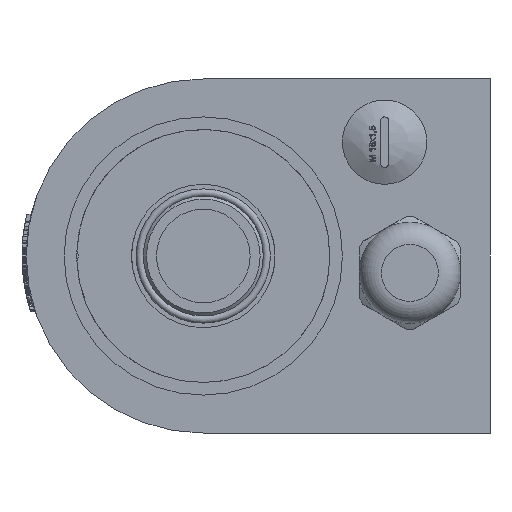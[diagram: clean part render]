
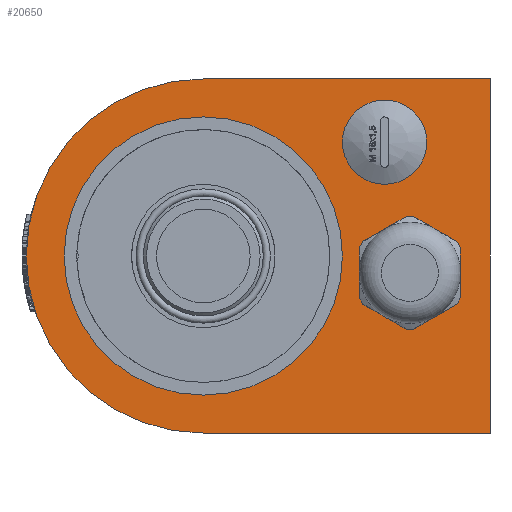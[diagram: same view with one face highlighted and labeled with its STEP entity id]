
A CAD part, front view. The second image highlights one B-rep face of the part: STEP entity #20650.
In plain terms, the highlighted planar face has unit normal (0, -1, 0).
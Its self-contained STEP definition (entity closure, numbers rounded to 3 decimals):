
#548=FACE_BOUND('',#6985,.T.);
#549=FACE_BOUND('',#6986,.T.);
#550=FACE_BOUND('',#6987,.T.);
#1156=LINE('',#29735,#2722);
#1163=LINE('',#29755,#2729);
#1170=LINE('',#29775,#2736);
#1177=LINE('',#29795,#2743);
#1184=LINE('',#29815,#2750);
#1191=LINE('',#29835,#2757);
#1198=LINE('',#29873,#2764);
#1200=LINE('',#29876,#2766);
#1203=LINE('',#29888,#2769);
#1213=LINE('',#30205,#2779);
#1214=LINE('',#30208,#2780);
#1215=LINE('',#30210,#2781);
#1217=LINE('',#30233,#2783);
#1218=LINE('',#30235,#2784);
#1219=LINE('',#30238,#2785);
#2722=VECTOR('',#23635,10.);
#2729=VECTOR('',#23646,10.);
#2736=VECTOR('',#23657,10.);
#2743=VECTOR('',#23668,10.);
#2750=VECTOR('',#23679,10.);
#2757=VECTOR('',#23690,10.);
#2764=VECTOR('',#23709,10.);
#2766=VECTOR('',#23713,10.);
#2769=VECTOR('',#23720,10.);
#2779=VECTOR('',#23788,10.);
#2780=VECTOR('',#23793,10.);
#2781=VECTOR('',#23796,10.);
#2783=VECTOR('',#23826,10.);
#2784=VECTOR('',#23827,10.);
#2785=VECTOR('',#23830,10.);
#5043=PLANE('',#21852);
#5793=FACE_OUTER_BOUND('',#6984,.T.);
#6984=EDGE_LOOP('',(#14642,#14643,#14644,#14645));
#6985=EDGE_LOOP('',(#14646,#14647));
#6986=EDGE_LOOP('',(#14648,#14649,#14650,#14651,#14652,#14653,#14654,#14655,
#14656,#14657,#14658,#14659));
#6987=EDGE_LOOP('',(#14660,#14661));
#8131=CIRCLE('',#21785,10.);
#8132=CIRCLE('',#21786,10.);
#8150=CIRCLE('',#21847,33.);
#8151=CIRCLE('',#21848,33.);
#8154=CIRCLE('',#21853,42.);
#8733=VERTEX_POINT('',#29714);
#8734=VERTEX_POINT('',#29716);
#8737=VERTEX_POINT('',#29732);
#8738=VERTEX_POINT('',#29734);
#8745=VERTEX_POINT('',#29752);
#8746=VERTEX_POINT('',#29754);
#8753=VERTEX_POINT('',#29772);
#8754=VERTEX_POINT('',#29774);
#8761=VERTEX_POINT('',#29792);
#8762=VERTEX_POINT('',#29794);
#8769=VERTEX_POINT('',#29812);
#8770=VERTEX_POINT('',#29814);
#8777=VERTEX_POINT('',#29832);
#8778=VERTEX_POINT('',#29834);
#8800=VERTEX_POINT('',#30221);
#8801=VERTEX_POINT('',#30223);
#8803=VERTEX_POINT('',#30231);
#8804=VERTEX_POINT('',#30232);
#8805=VERTEX_POINT('',#30234);
#8806=VERTEX_POINT('',#30236);
#10960=EDGE_CURVE('',#8734,#8733,#8131,.T.);
#10961=EDGE_CURVE('',#8733,#8734,#8132,.T.);
#10964=EDGE_CURVE('',#8738,#8737,#1156,.T.);
#10972=EDGE_CURVE('',#8746,#8745,#1163,.T.);
#10980=EDGE_CURVE('',#8754,#8753,#1170,.T.);
#10988=EDGE_CURVE('',#8762,#8761,#1177,.T.);
#10996=EDGE_CURVE('',#8770,#8769,#1184,.T.);
#11004=EDGE_CURVE('',#8778,#8777,#1191,.T.);
#11018=EDGE_CURVE('',#8753,#8738,#1198,.T.);
#11020=EDGE_CURVE('',#8761,#8746,#1200,.T.);
#11025=EDGE_CURVE('',#8777,#8762,#1203,.T.);
#11061=EDGE_CURVE('',#8737,#8770,#1213,.T.);
#11062=EDGE_CURVE('',#8745,#8754,#1214,.T.);
#11063=EDGE_CURVE('',#8769,#8778,#1215,.T.);
#11066=EDGE_CURVE('',#8801,#8800,#8150,.T.);
#11067=EDGE_CURVE('',#8800,#8801,#8151,.T.);
#11070=EDGE_CURVE('',#8803,#8804,#1217,.T.);
#11071=EDGE_CURVE('',#8805,#8803,#1218,.T.);
#11072=EDGE_CURVE('',#8806,#8805,#8154,.T.);
#11073=EDGE_CURVE('',#8804,#8806,#1219,.T.);
#14642=ORIENTED_EDGE('',*,*,#11070,.F.);
#14643=ORIENTED_EDGE('',*,*,#11071,.F.);
#14644=ORIENTED_EDGE('',*,*,#11072,.F.);
#14645=ORIENTED_EDGE('',*,*,#11073,.F.);
#14646=ORIENTED_EDGE('',*,*,#10960,.T.);
#14647=ORIENTED_EDGE('',*,*,#10961,.T.);
#14648=ORIENTED_EDGE('',*,*,#11004,.T.);
#14649=ORIENTED_EDGE('',*,*,#11025,.T.);
#14650=ORIENTED_EDGE('',*,*,#10988,.T.);
#14651=ORIENTED_EDGE('',*,*,#11020,.T.);
#14652=ORIENTED_EDGE('',*,*,#10972,.T.);
#14653=ORIENTED_EDGE('',*,*,#11062,.T.);
#14654=ORIENTED_EDGE('',*,*,#10980,.T.);
#14655=ORIENTED_EDGE('',*,*,#11018,.T.);
#14656=ORIENTED_EDGE('',*,*,#10964,.T.);
#14657=ORIENTED_EDGE('',*,*,#11061,.T.);
#14658=ORIENTED_EDGE('',*,*,#10996,.T.);
#14659=ORIENTED_EDGE('',*,*,#11063,.T.);
#14660=ORIENTED_EDGE('',*,*,#11066,.T.);
#14661=ORIENTED_EDGE('',*,*,#11067,.T.);
#20650=ADVANCED_FACE('',(#5793,#548,#549,#550),#5043,.F.);
#21785=AXIS2_PLACEMENT_3D('',#29717,#23627,#23628);
#21786=AXIS2_PLACEMENT_3D('',#29718,#23629,#23630);
#21847=AXIS2_PLACEMENT_3D('',#30224,#23814,#23815);
#21848=AXIS2_PLACEMENT_3D('',#30225,#23816,#23817);
#21852=AXIS2_PLACEMENT_3D('',#30230,#23824,#23825);
#21853=AXIS2_PLACEMENT_3D('',#30237,#23828,#23829);
#23627=DIRECTION('center_axis',(0.,1.,0.));
#23628=DIRECTION('ref_axis',(0.,0.,
-1.));
#23629=DIRECTION('center_axis',(0.,1.,0.));
#23630=DIRECTION('ref_axis',(0.,0.,
-1.));
#23635=DIRECTION('',(1.,0.,0.));
#23646=DIRECTION('',(-0.5,0.,0.866));
#23657=DIRECTION('',(0.5,0.,0.866));
#23668=DIRECTION('',(-1.,0.,0.));
#23679=DIRECTION('',(0.5,0.,-0.866));
#23690=DIRECTION('',(-0.5,0.,-0.866));
#23709=DIRECTION('',(0.866,0.,0.5));
#23713=DIRECTION('',(-0.866,0.,0.5));
#23720=DIRECTION('',(-0.866,0.,-0.5));
#23788=DIRECTION('',(0.866,0.,-0.5));
#23793=DIRECTION('',(0.,0.,1.));
#23796=DIRECTION('',(0.,0.,-1.));
#23814=DIRECTION('center_axis',(0.,1.,0.));
#23815=DIRECTION('ref_axis',(0.,0.,
-1.));
#23816=DIRECTION('center_axis',(0.,1.,0.));
#23817=DIRECTION('ref_axis',(0.,0.,
-1.));
#23824=DIRECTION('center_axis',(0.,1.,0.));
#23825=DIRECTION('ref_axis',(0.,0.,
-1.));
#23826=DIRECTION('',(0.,0.,-1.));
#23827=DIRECTION('',(1.,0.,0.));
#23828=DIRECTION('center_axis',(0.,1.,0.));
#23829=DIRECTION('ref_axis',(0.,0.,
-1.));
#23830=DIRECTION('',(-1.,0.,0.));
#29714=CARTESIAN_POINT('',(43.,66.6,37.));
#29716=CARTESIAN_POINT('',(43.,66.6,17.));
#29717=CARTESIAN_POINT('Origin',(43.,66.6,27.));
#29718=CARTESIAN_POINT('Origin',(43.,66.6,27.));
#29732=CARTESIAN_POINT('',(49.866,66.6,9.356));
#29734=CARTESIAN_POINT('',(48.134,66.6,9.356));
#29735=CARTESIAN_POINT('',(35.098,66.6,9.356));
#29752=CARTESIAN_POINT('',(37.,66.6,-9.928));
#29754=CARTESIAN_POINT('',(37.866,66.6,-11.428));
#29755=CARTESIAN_POINT('',(32.767,66.6,-2.596));
#29772=CARTESIAN_POINT('',(37.866,66.6,3.428));
#29774=CARTESIAN_POINT('',(37.,66.6,1.928));
#29775=CARTESIAN_POINT('',(34.932,66.6,-1.654));
#29792=CARTESIAN_POINT('',(48.134,66.6,-17.356));
#29794=CARTESIAN_POINT('',(49.866,66.6,-17.356));
#29795=CARTESIAN_POINT('',(34.232,66.6,-17.356));
#29812=CARTESIAN_POINT('',(61.,66.6,1.928));
#29814=CARTESIAN_POINT('',(60.134,66.6,3.428));
#29815=CARTESIAN_POINT('',(56.334,66.6,10.01));
#29832=CARTESIAN_POINT('',(60.134,66.6,-11.428));
#29834=CARTESIAN_POINT('',(61.,66.6,-9.928));
#29835=CARTESIAN_POINT('',(57.633,66.6,-15.76));
#29873=CARTESIAN_POINT('',(30.115,66.6,-1.047));
#29876=CARTESIAN_POINT('',(34.383,66.6,-9.417));
#29888=CARTESIAN_POINT('',(48.115,66.6,-18.367));
#30205=CARTESIAN_POINT('',(40.383,66.6,14.832));
#30208=CARTESIAN_POINT('',(37.,66.6,-5.464));
#30210=CARTESIAN_POINT('',(61.,66.6,1.464));
#30221=CARTESIAN_POINT('',(0.,66.6,33.));
#30223=CARTESIAN_POINT('',(-33.,66.6,0.));
#30224=CARTESIAN_POINT('Origin',(0.,66.6,
0.));
#30225=CARTESIAN_POINT('Origin',(0.,66.6,
0.));
#30230=CARTESIAN_POINT('Origin',(20.33,66.6,0.));
#30231=CARTESIAN_POINT('',(68.,66.6,42.));
#30232=CARTESIAN_POINT('',(68.,66.6,-42.));
#30233=CARTESIAN_POINT('',(68.,66.6,42.));
#30234=CARTESIAN_POINT('',(0.,66.6,42.));
#30235=CARTESIAN_POINT('',(0.,66.6,42.));
#30236=CARTESIAN_POINT('',(0.,66.6,-42.));
#30237=CARTESIAN_POINT('Origin',(0.,66.6,
0.));
#30238=CARTESIAN_POINT('',(68.,66.6,-42.));
